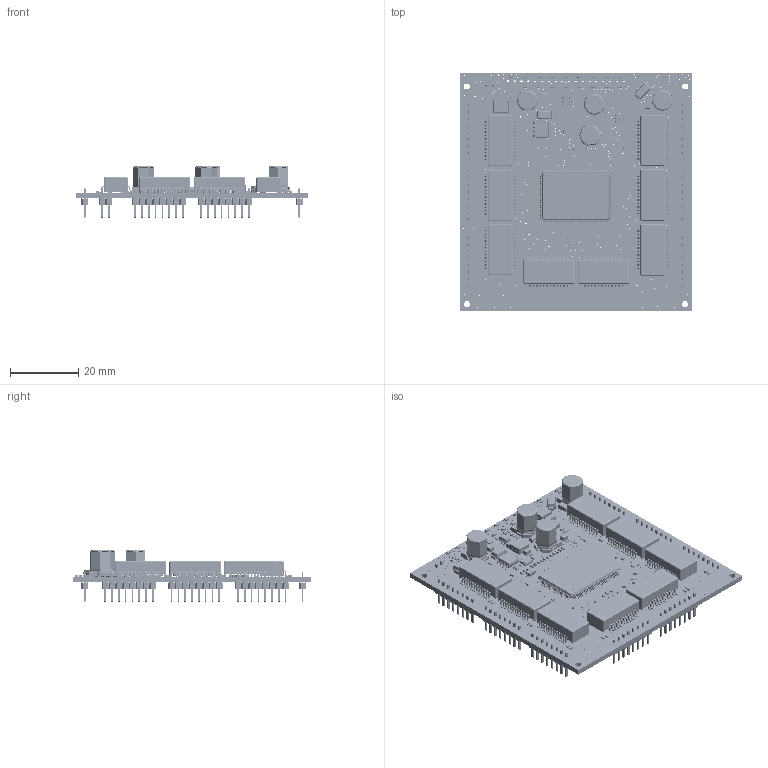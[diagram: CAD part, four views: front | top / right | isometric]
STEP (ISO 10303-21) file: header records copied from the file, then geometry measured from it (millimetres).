
FILE_DESCRIPTION( ('This file contains a STEP AP42 implementation' ,'as created by ZW3D STEP Interface translator.' ,'') ,'2;1' );
FILE_NAME( 'LX-SG803-2.step' ,'24 712.101242', (''), ('ZWCAD Software Co.'), 'Version 1.0', 'ZW3D to STEP translator', '' );
FILE_SCHEMA(('AUTOMOTIVE_DESIGN { 1 0 10303 214 1 1 1 1 }'));
Length unit declared in the file: millimetre
Products named in the file (200): 0; LX-SG803-2; TopTrack; BottomTrack; Board; 9jJW-C24; C0805; SOLID; 9jJW-C3; 9jJW-C51; 9jJW-C15; 9jJW-C25; 0402; SOLID_1; 9jJW-C28; 9jJW-C34; 9jJW-C35; 9jJW-C36; 9jJW-C4; 9jJW-C5; 9jJW-C7; 9jJW-C39; 9jJW-C41; 9jJW-C45; 9jJW-C42; 9jJW-C38; 9jJW-C9; 9jJW-C18; 9jJW-C16; 9jJW-C33; 9jJW-C31; 9jJW-C32; 9jJW-C37; 9jJW-C72; 9jJW-C11; 9jJW-C65; 9jJW-C40; 9jJW-C8; 9jJW-C20; 9jJW-C59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
Assembly tree (331 placements, depth 4):
  0
  LX-SG803-2
    TopTrack
    BottomTrack
    Board
    9jJW-C24
      C0805
        SOLID
    9jJW-C3
      C0805
        SOLID
    9jJW-C51
      C0805
        SOLID
    9jJW-C15
      C0805
        SOLID
    9jJW-C25
      0402
        SOLID_1
    9jJW-C28
      0402
        SOLID_1
    9jJW-C34
      0402
        SOLID_1
    9jJW-C35
      0402
        SOLID_1
    9jJW-C36
      0402
        SOLID_1
    9jJW-C4
      0402
        SOLID_1
    9jJW-C5
      0402
        SOLID_1
    9jJW-C7
      0402
        SOLID_1
    9jJW-C39
      0402
        SOLID_1
    9jJW-C41
      0402
        SOLID_1
    9jJW-C45
      0402
        SOLID_1
    9jJW-C42
      0402
        SOLID_1
    9jJW-C38
      0402
        SOLID_1
    9jJW-C9
      0402
        SOLID_1
    9jJW-C18
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Bounding box: 67.97 x 69.97 x 15.15 mm (x, y, z)
Topology: 333 solids, 434 shells, 19368 faces, 58834 edges, 42729 vertices
Faces by surface type: plane 11362, cylinder 6006, sphere 1020, bspline 744, torus 236
Full cylindrical faces by diameter (mm): 0.02 x1
Entity records: 226609 total; most frequent: CARTESIAN_POINT 52847, ORIENTED_EDGE 35114, DIRECTION 32906, EDGE_CURVE 17570, VERTEX_POINT 12410, AXIS2_PLACEMENT_3D 11060, VECTOR 10786, LINE 10786
